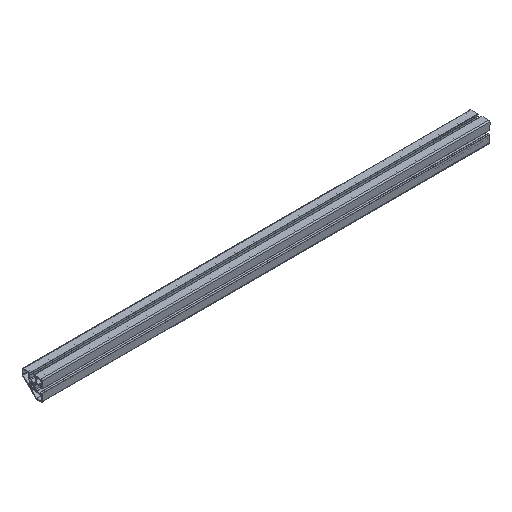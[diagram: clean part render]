
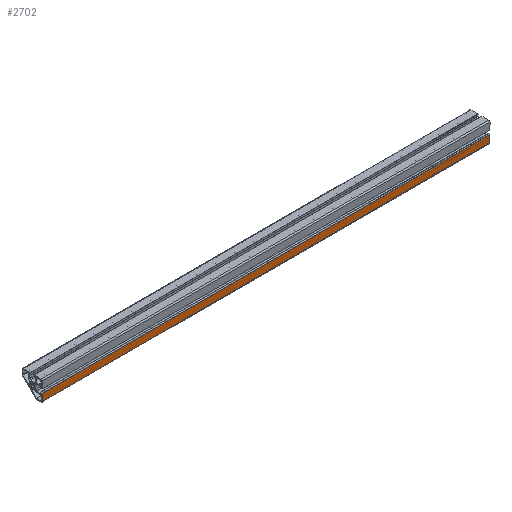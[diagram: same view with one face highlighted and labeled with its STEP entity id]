
A CAD part, isometric view. The second image highlights one B-rep face of the part: STEP entity #2702.
In plain terms, the highlighted planar face has unit normal (0, -1, 0).
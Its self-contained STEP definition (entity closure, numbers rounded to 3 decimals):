
#74 = ORIENTED_EDGE ( 'NONE', *, *, #2282, .F. ) ;
#91 = DIRECTION ( 'NONE',  ( 0., 0., -1. ) ) ;
#152 = VECTOR ( 'NONE', #969, 1000. ) ;
#224 = DIRECTION ( 'NONE',  ( -1., 0., 0. ) ) ;
#277 = DIRECTION ( 'NONE',  ( 0., 0., 1. ) ) ;
#321 = VECTOR ( 'NONE', #91, 1000. ) ;
#555 = CARTESIAN_POINT ( 'NONE',  ( 0., -22.5, -20. ) ) ;
#559 = VECTOR ( 'NONE', #224, 1000. ) ;
#664 = CARTESIAN_POINT ( 'NONE',  ( 1000., -22.5, -4.375 ) ) ;
#699 = LINE ( 'NONE', #3224, #321 ) ;
#746 = AXIS2_PLACEMENT_3D ( 'NONE', #855, #3674, #277 ) ;
#780 = ORIENTED_EDGE ( 'NONE', *, *, #2581, .F. ) ;
#855 = CARTESIAN_POINT ( 'NONE',  ( 1000., -22.5, -4.375 ) ) ;
#950 = CARTESIAN_POINT ( 'NONE',  ( 1000., -22.5, -4.375 ) ) ;
#969 = DIRECTION ( 'NONE',  ( -1., 0., 0. ) ) ;
#1043 = ORIENTED_EDGE ( 'NONE', *, *, #1894, .T. ) ;
#1069 = CARTESIAN_POINT ( 'NONE',  ( 1000., -22.5, -20. ) ) ;
#1084 = LINE ( 'NONE', #1069, #559 ) ;
#1165 = CARTESIAN_POINT ( 'NONE',  ( 1000., -22.5, -20. ) ) ;
#1379 = PLANE ( 'NONE',  #746 ) ;
#1390 = ORIENTED_EDGE ( 'NONE', *, *, #2383, .T. ) ;
#1519 = CARTESIAN_POINT ( 'NONE',  ( 1000., -22.5, -4.375 ) ) ;
#1638 = EDGE_LOOP ( 'NONE', ( #1043, #780, #74, #1390 ) ) ;
#1744 = VERTEX_POINT ( 'NONE', #1165 ) ;
#1828 = VERTEX_POINT ( 'NONE', #555 ) ;
#1894 = EDGE_CURVE ( 'NONE', #3432, #1828, #699, .T. ) ;
#2282 = EDGE_CURVE ( 'NONE', #2307, #1744, #3254, .T. ) ;
#2307 = VERTEX_POINT ( 'NONE', #950 ) ;
#2383 = EDGE_CURVE ( 'NONE', #2307, #3432, #2386, .T. ) ;
#2386 = LINE ( 'NONE', #664, #152 ) ;
#2427 = DIRECTION ( 'NONE',  ( 0., 0., -1. ) ) ;
#2495 = CARTESIAN_POINT ( 'NONE',  ( 0., -22.5, -4.375 ) ) ;
#2581 = EDGE_CURVE ( 'NONE', #1744, #1828, #1084, .T. ) ;
#2597 = VECTOR ( 'NONE', #2427, 1000. ) ;
#2702 = ADVANCED_FACE ( 'NONE', ( #2858 ), #1379, .F. ) ;
#2858 = FACE_OUTER_BOUND ( 'NONE', #1638, .T. ) ;
#3224 = CARTESIAN_POINT ( 'NONE',  ( 0., -22.5, -4.375 ) ) ;
#3254 = LINE ( 'NONE', #1519, #2597 ) ;
#3432 = VERTEX_POINT ( 'NONE', #2495 ) ;
#3674 = DIRECTION ( 'NONE',  ( 0., 1., 0. ) ) ;
